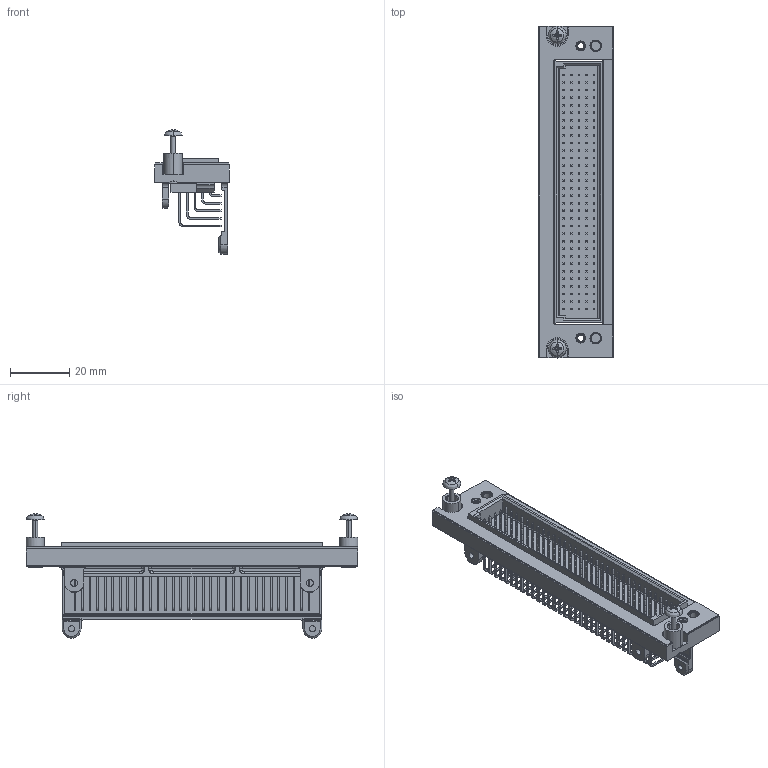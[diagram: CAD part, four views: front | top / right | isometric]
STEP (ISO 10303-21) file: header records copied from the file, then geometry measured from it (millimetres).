
FILE_DESCRIPTION((''),'2;1');
FILE_NAME('CU_NI-283X','2012-07-11T',('jjorden'),(''),'PRO/ENGINEER BY PARAMETRIC TECHNOLOGY CORPORATION, 2010230','PRO/ENGINEER BY PARAMETRIC TECHNOLOGY CORPORATION, 2010230','');
FILE_SCHEMA(('CONFIG_CONTROL_DESIGN'));
Products named in the file (1): CU_NI-283X
Bounding box: 25.15 x 111.63 x 41.79 mm (x, y, z)
Volume: 19547.8 mm3; surface area: 24667.4 mm2
Topology: 4 solids, 4 shells, 3338 faces, 8174 edges, 5176 vertices
Faces by surface type: plane 2781, cylinder 473, bspline 40, cone 30, sphere 10, torus 4
Entity records: 103809 total; most frequent: CARTESIAN_POINT 24835, ORIENTED_EDGE 16320, DIRECTION 15660, EDGE_CURVE 8160, VECTOR 7028, LINE 7028, VERTEX_POINT 5214, AXIS2_PLACEMENT_3D 4316
